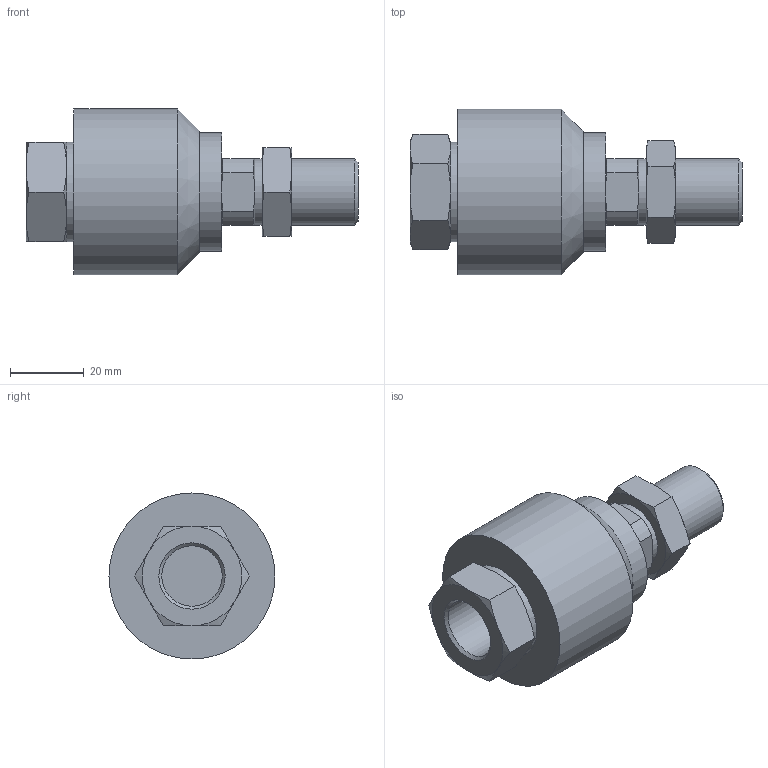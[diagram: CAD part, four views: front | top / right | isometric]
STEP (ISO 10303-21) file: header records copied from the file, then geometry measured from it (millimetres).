
FILE_DESCRIPTION( ( 'STEP AP214' ), '1' );
FILE_NAME( 'p:/temp/worker_205/temp/app_52_02019012122394228527835192d056f_000000_00_00_000000/format_0/MFC-1018T-M18x1.5.stp', '2019-01-21T21:39:42', ( '' ), ( '' ), ' ', 'PARTsolutions', ' ' );
FILE_SCHEMA( ( 'AUTOMOTIVE_DESIGN { 1 0 10303 214 1 1 1 1 }' ) );
Length unit declared in the file: millimetre
Products named in the file (1): _MFC-1018T-M18x1.5
Bounding box: 90 x 45 x 45 mm (x, y, z)
Volume: 71512.2 mm3; surface area: 13347.3 mm2
Topology: 1 solids, 1 shells, 69 faces, 146 edges, 85 vertices
Faces by surface type: cone 35, plane 24, cylinder 10
Full cylindrical faces by diameter (mm): 16.376 x1, 18 x2, 27 x1, 32 x1, 45 x1
Entity records: 2532 total; most frequent: CARTESIAN_POINT 612, ORIENTED_EDGE 274, DIRECTION 266, EDGE_CURVE 137, AXIS2_PLACEMENT_3D 123, VERTEX_POINT 85, EDGE_LOOP 84, FACE_OUTER_BOUND 75
